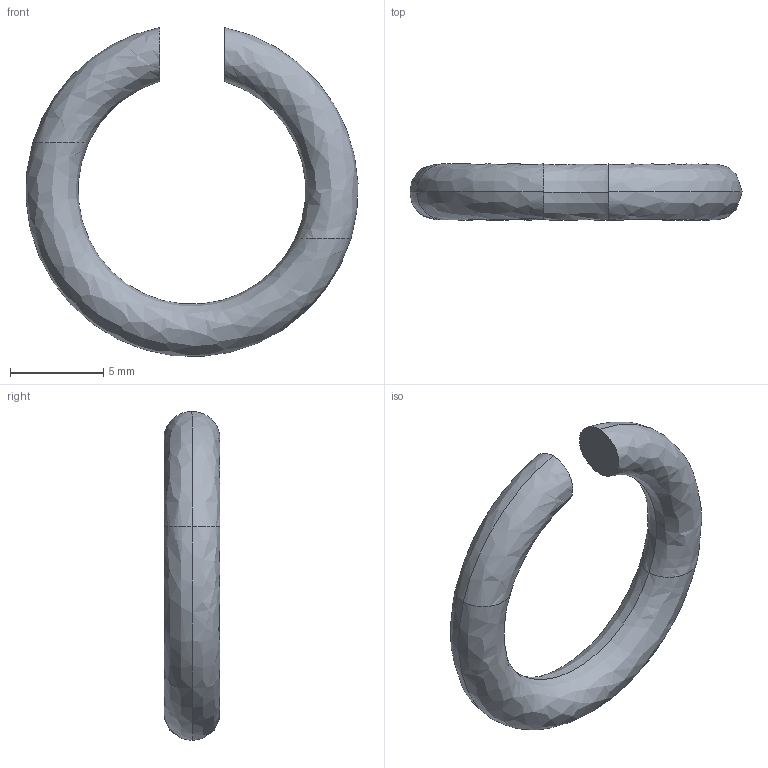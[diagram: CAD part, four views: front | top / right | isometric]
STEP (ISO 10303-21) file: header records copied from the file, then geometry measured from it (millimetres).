
FILE_DESCRIPTION (( 'STEP AP214' ), '1' );
FILE_NAME ('Ring_Hook.STEP', '2015-03-19T12:14:04', ( '' ), ( '' ), 'SwSTEP 2.0', 'SolidWorks 2014', '' );
FILE_SCHEMA (( 'AUTOMOTIVE_DESIGN' ));
Length unit declared in the file: millimetre
Products named in the file (1): Ring_Hook
Bounding box: 17.83 x 3 x 17.66 mm (x, y, z)
Volume: 289.6 mm3; surface area: 412.6 mm2
Topology: 1 solids, 1 shells, 8 faces, 14 edges, 8 vertices
Faces by surface type: bspline 6, plane 2
Entity records: 388 total; most frequent: CARTESIAN_POINT 221, ORIENTED_EDGE 28, DIRECTION 26, EDGE_CURVE 14, AXIS2_PLACEMENT_3D 13, CIRCLE 10, EDGE_LOOP 8, VERTEX_POINT 8
